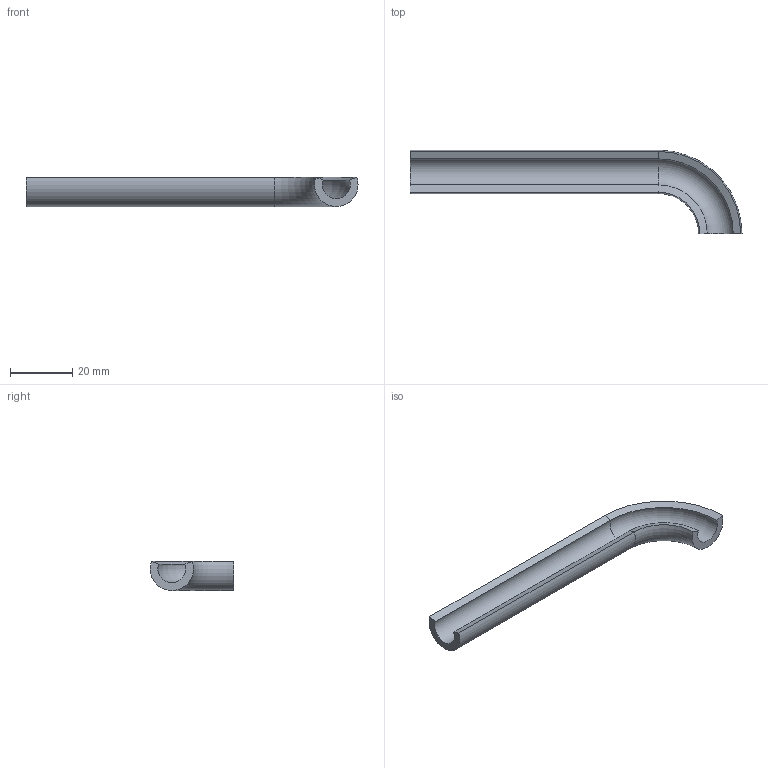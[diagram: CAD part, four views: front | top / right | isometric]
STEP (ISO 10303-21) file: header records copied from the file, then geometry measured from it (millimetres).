
FILE_DESCRIPTION(/* description */ ('STEP AP242 Edition 2','CAx-IF Rec.Pracs.---Representation and Presentation of Product Manufacturing Information (PMI)---4.0---2014-10-13','CAx-IF Rec.Pracs.---3D Tessellated Geometry---0.4---2014-09-14','2;1','CAx-IF Rec.Pracs.---User Defined Attributes---1.5---2016-08-15'),/* implementation_level */ '2;1');
FILE_NAME(/* name */ 'Assembly 1 - Part 16',/* time_stamp */ '2026-10-18T18:48:31Z',/* author */ (''),/* organization */ (''),/* preprocessor_version */ 'ST-DEVELOPER v20',/* originating_system */ 'ONSHAPE BY PTC INC, 1.222',/* authorisation */ ' ');
FILE_SCHEMA (('AP242_MANAGED_MODEL_BASED_3D_ENGINEERING_MIM_LF { 1 0 10303 442 3 1 4 }'));
Length unit declared in the file: metre
Products named in the file (1): Part 16
Bounding box: 107 x 27 x 9.39 mm (x, y, z)
Volume: 6149.7 mm3; surface area: 5587.2 mm2
Topology: 1 solids, 1 shells, 10 faces, 20 edges, 12 vertices
Faces by surface type: plane 4, cone 2, torus 2, cylinder 2
Entity records: 284 total; most frequent: DIRECTION 52, CARTESIAN_POINT 43, ORIENTED_EDGE 40, AXIS2_PLACEMENT_3D 21, EDGE_CURVE 20, VERTEX_POINT 12, CIRCLE 10, LINE 10
